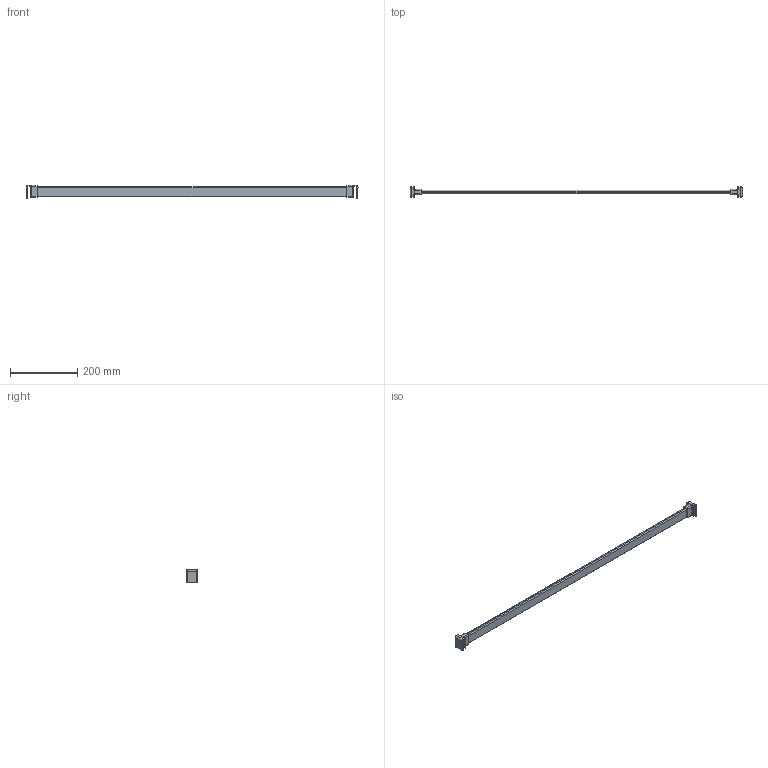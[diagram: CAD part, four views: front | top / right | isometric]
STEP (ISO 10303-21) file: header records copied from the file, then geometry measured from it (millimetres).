
FILE_DESCRIPTION (( 'STEP AP214' ), '1' );
FILE_NAME ('_Querreling_KAB-1050_KS-16_P602_Glashalter.step', '2010-08-26T14:59:40', ( 'grass' ), ( '' ), 'SwSTEP 2.0', 'SolidWorks 2009', '' );
FILE_SCHEMA (( 'AUTOMOTIVE_DESIGN' ));
Length unit declared in the file: millimetre
Products named in the file (1): _Querreling_KAB-1050_KS-16_P602_Glashalter
Bounding box: 990.78 x 30 x 41.5 mm (x, y, z)
Volume: 320914.1 mm3; surface area: 85384.2 mm2
Topology: 1 solids, 1 shells, 124 faces, 300 edges, 176 vertices
Faces by surface type: cylinder 58, plane 34, torus 16, bspline 12, sphere 4
Entity records: 5090 total; most frequent: CARTESIAN_POINT 2269, ORIENTED_EDGE 592, DIRECTION 590, EDGE_CURVE 296, AXIS2_PLACEMENT_3D 225, VERTEX_POINT 176, VECTOR 140, LINE 140
